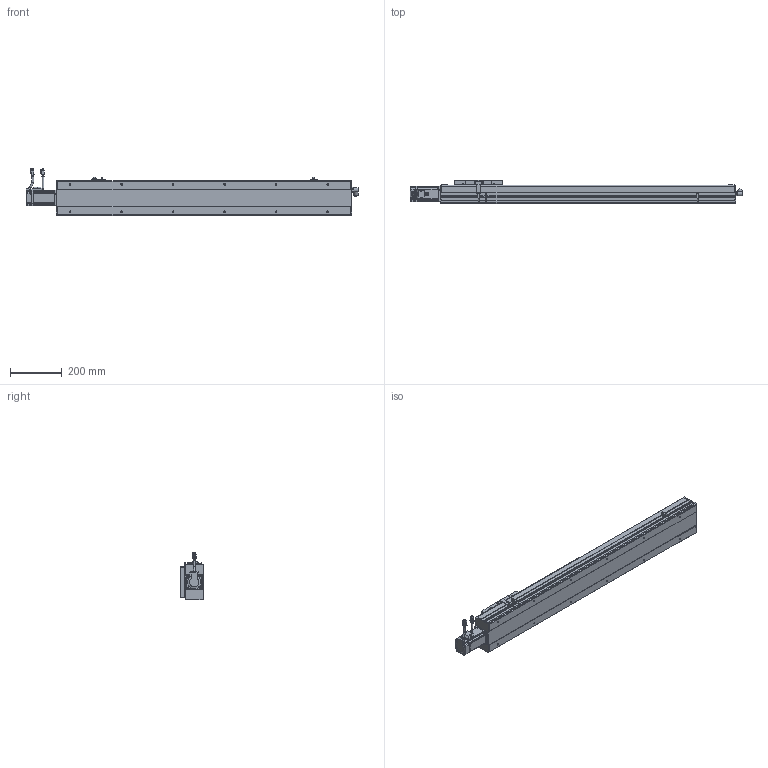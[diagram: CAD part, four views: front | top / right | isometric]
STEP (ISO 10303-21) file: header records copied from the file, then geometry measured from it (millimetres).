
FILE_DESCRIPTION(/* description */ ('STEP AP214'),/* implementation_level */ '2;1');
FILE_NAME(/* name */ 'PSC140-L05-S850-BC-P40-C1-N(0)',/* time_stamp */ '2022-06-13T03:16:05+02:00',/* author */ ('License CC BY-ND 4.0'),/* organization */ ('CADENAS'),/* preprocessor_version */ 'ST-DEVELOPER v18.102',/* originating_system */ 'PARTsolutions',/* authorisation */ ' ');
FILE_SCHEMA (('AUTOMOTIVE_DESIGN {1 0 10303 214 3 1 1}'));
Length unit declared in the file: millimetre
Products named in the file (10): PSC140-L05-S850-BC-P40-C1-N(0); P40-s2; P40-c2; P40-s1; P40-c1; P40-p1; PSC140-sensor; PSC140-BC-SLIDER; PSC140-S850-BC-P40-C1_BODY1; PSC140-L05-S850-BC-P40-C1-N(0)_dummy
Assembly tree (11 placements, depth 2):
  PSC140-L05-S850-BC-P40-C1-N(0)
    P40-s2
    P40-c2
    P40-s1
    P40-c1
    P40-p1
    PSC140-sensor  x3
    PSC140-BC-SLIDER
    PSC140-S850-BC-P40-C1_BODY1
    PSC140-L05-S850-BC-P40-C1-N(0)_dummy
Bounding box: 1289 x 91 x 182.48 mm (x, y, z)
Volume: 11612236.3 mm3; surface area: 672674.9 mm2
Topology: 10 solids, 10 shells, 1250 faces, 3220 edges, 2127 vertices
Faces by surface type: plane 866, cylinder 317, cone 48, torus 19
Full cylindrical faces by diameter (mm): 1 x8, 2.6 x10, 2.8 x3, 3.3 x8, 4.5 x12, 4.6 x3, 4.917 x16, 5 x4, 5.5 x8, 6 x10, 6.08 x4, 7 x10, 9 x2, 10 x1, 11 x1, 13.74 x1, 14 x1, 16.4 x2, 16.5 x1, 19.98 x1, 31.98 x1, 35.5 x1, 50 x2
Entity records: 34478 total; most frequent: CARTESIAN_POINT 6019, DIRECTION 5803, ORIENTED_EDGE 5582, EDGE_CURVE 2791, LINE 2109, VECTOR 2109, VERTEX_POINT 1948, AXIS2_PLACEMENT_3D 1847
